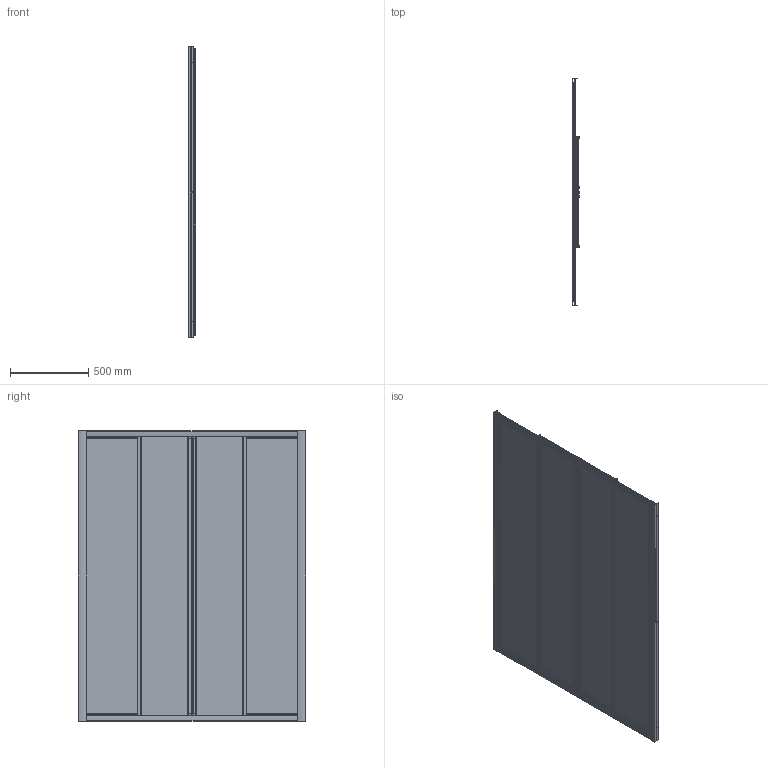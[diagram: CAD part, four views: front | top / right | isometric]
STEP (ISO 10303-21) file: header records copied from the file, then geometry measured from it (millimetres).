
FILE_DESCRIPTION(/* description */ (''),/* implementation_level */ '2;1');
FILE_NAME(/* name */ 'C:\Users\benassi\Desktop\dwg 3D\America tre 2019\America 3 scorr4a 145-152.stp',/* time_stamp */ '2018-07-17T14:21:31+02:00',/* author */ ('benassi'),/* organization */ (''),/* preprocessor_version */ 'ST-DEVELOPER v16.1',/* originating_system */ 'Autodesk Inventor 2016',/* authorisation */ '');
FILE_SCHEMA (('AUTOMOTIVE_DESIGN { 1 0 10303 214 3 1 1 }'));
Products named in the file (30): 10000021348; 10000008462; 10000021349; 10000008458; 10000008457; 10000008460; VITE TC 2,9-38; 10000004703_IPT_000; 10000004703_IPT_000_1; 10000021106; 10000013432; 10000013433; 10000013434; 10000021304; 10000021350; 10000021147; 10000008466; 10000021354; 10000008467; 10000021146; 10000008468; 10000008472; 10000021353; ISO 7049 - ST3,5 x 16 - C - H; 10000021141; 10000002064_IPT_000; ISO 7045 - M4 x 6 - 4.8 - HISO; 10000000633_IPT_000; 10000021352; 10000021346
Assembly tree (55 placements, depth 3):
  10000021346
    10000021348  x2
    10000008462  x2
    10000021349  x2
    10000008458  x2
    10000008457  x2
    10000008460  x4
    VITE TC 2,9-38  x2
    10000004703_IPT_000
    10000004703_IPT_000_1
    10000021106  x2
    10000013434  x4
      10000013432
      10000013433
    10000021304  x2
    10000021350  x4
    10000021352  x2
      10000021147
      10000008466
      10000021354
      10000008467
      10000021146
      10000008468
      10000008472
      10000021353
      ISO 7049 - ST3,5 x 16 - C - H
      10000021141
      10000002064_IPT_000
      ISO 7045 - M4 x 6 - 4.8 - HISO
      10000000633_IPT_000
Bounding box: 49.14 x 1449.58 x 1850 mm (x, y, z)
Volume: 9931298.1 mm3; surface area: 10158603.1 mm2
Topology: 76 solids, 76 shells, 4024 faces, 11016 edges, 7210 vertices
Faces by surface type: plane 1908, cylinder 1516, cone 342, torus 162, bspline 68, sphere 28
Full cylindrical faces by diameter (mm): 2.9 x2, 3 x8, 3.1 x4, 3.242 x8, 3.5 x8, 3.621 x2, 3.9 x4, 4 x14, 4.2 x8, 5 x6, 6.3 x4, 7 x8, 7.3 x4, 7.6 x8, 7.8 x4, 8 x16, 9 x4, 9.8 x4, 10 x8, 16 x8
Entity records: 57064 total; most frequent: CARTESIAN_POINT 12059, DIRECTION 9451, ORIENTED_EDGE 9084, EDGE_CURVE 4542, AXIS2_PLACEMENT_3D 3399, VERTEX_POINT 3009, LINE 2653, VECTOR 2653
